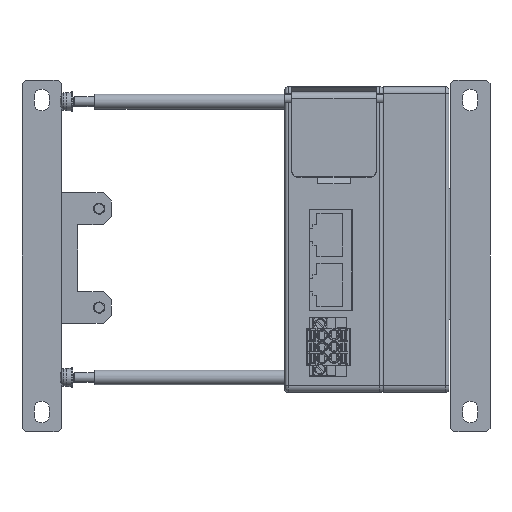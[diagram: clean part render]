
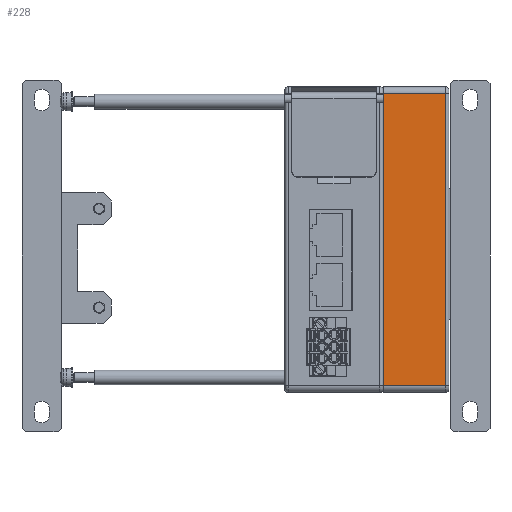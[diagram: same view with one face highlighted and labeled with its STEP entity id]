
A CAD part, front view. The second image highlights one B-rep face of the part: STEP entity #228.
In plain terms, the highlighted planar face has unit normal (0, -1, 0).
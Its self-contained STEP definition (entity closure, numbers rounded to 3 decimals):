
#228=ADVANCED_FACE('',(#1982),#1981,.T.);
#1981=PLANE('',#9312);
#1982=FACE_OUTER_BOUND('',#9313,.T.);
#9309=CARTESIAN_POINT('',(28.1,-53.6,69.1));
#9310=DIRECTION('',(0.,-1.,0.));
#9311=DIRECTION('',(0.,0.,-1.));
#9312=AXIS2_PLACEMENT_3D('',#9309,#9310,#9311);
#9313=EDGE_LOOP('',(#14082,#14083,#14084,#14085));
#14082=ORIENTED_EDGE('',*,*,#17756,.T.);
#14083=ORIENTED_EDGE('',*,*,#17766,.T.);
#14084=ORIENTED_EDGE('',*,*,#17750,.T.);
#14085=ORIENTED_EDGE('',*,*,#17700,.F.);
#17700=EDGE_CURVE('',#21260,#21267,#21268,.T.);
#17750=EDGE_CURVE('',#21605,#21267,#21606,.T.);
#17756=EDGE_CURVE('',#21260,#21640,#21647,.T.);
#17766=EDGE_CURVE('',#21640,#21605,#21712,.T.);
#21260=VERTEX_POINT('',#33621);
#21267=VERTEX_POINT('',#33626);
#21268=LINE('',#33627,#33628);
#21605=VERTEX_POINT('',#33839);
#21606=LINE('',#33840,#33841);
#21640=VERTEX_POINT('',#33861);
#21647=LINE('',#33866,#33867);
#21712=LINE('',#33907,#33908);
#33621=CARTESIAN_POINT('',(30.,-53.6,-28.8));
#33626=CARTESIAN_POINT('',(30.,-53.6,60.2));
#33627=CARTESIAN_POINT('',(30.,-53.6,-28.8));
#33628=VECTOR('',#33629,89.);
#33629=DIRECTION('',(0.,0.,1.));
#33839=CARTESIAN_POINT('',(49.,-53.6,60.2));
#33840=CARTESIAN_POINT('',(49.,-53.6,60.2));
#33841=VECTOR('',#33842,19.);
#33842=DIRECTION('',(-1.,0.,0.));
#33861=CARTESIAN_POINT('',(49.,-53.6,-28.8));
#33866=CARTESIAN_POINT('',(30.,-53.6,-28.8));
#33867=VECTOR('',#33868,19.);
#33868=DIRECTION('',(1.,0.,0.));
#33907=CARTESIAN_POINT('',(49.,-53.6,-28.8));
#33908=VECTOR('',#33909,89.);
#33909=DIRECTION('',(0.,0.,1.));
